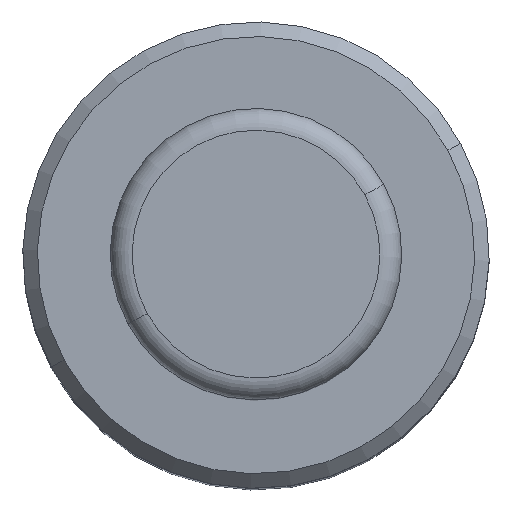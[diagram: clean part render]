
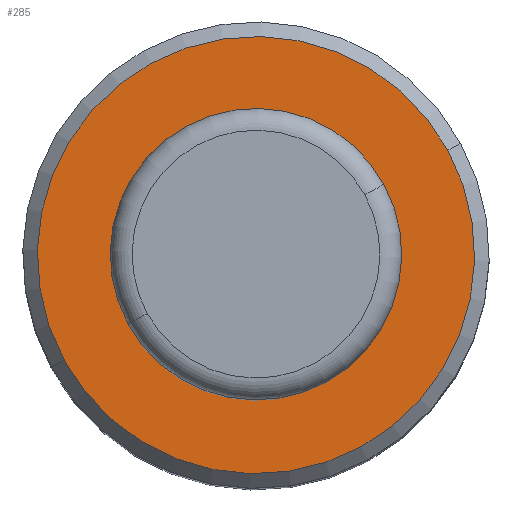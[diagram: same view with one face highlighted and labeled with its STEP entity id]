
A CAD part, top view. The second image highlights one B-rep face of the part: STEP entity #285.
In plain terms, the highlighted planar face has unit normal (0, 0, 1).
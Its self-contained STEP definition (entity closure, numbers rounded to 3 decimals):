
#57=CARTESIAN_POINT('Axis2P3D Location',(0.,0.,69.)) ;
#61=CARTESIAN_POINT('Vertex',(13.164,7.191,69.)) ;
#63=CARTESIAN_POINT('Vertex',(-13.164,-7.191,69.)) ;
#92=CARTESIAN_POINT('Axis2P3D Location',(0.,0.,69.)) ;
#276=CARTESIAN_POINT('Axis2P3D Location',(0.,0.,69.)) ;
#58=DIRECTION('Axis2P3D Direction',(0.,0.,-1.)) ;
#93=DIRECTION('Axis2P3D Direction',(0.,0.,-1.)) ;
#277=DIRECTION('Axis2P3D Direction',(0.,0.,1.)) ;
#278=DIRECTION('Axis2P3D XDirection',(1.,0.,0.)) ;
#59=AXIS2_PLACEMENT_3D('Circle Axis2P3D',#57,#58,$) ;
#94=AXIS2_PLACEMENT_3D('Circle Axis2P3D',#92,#93,$) ;
#279=AXIS2_PLACEMENT_3D('Plane Axis2P3D',#276,#277,#278) ;
#282=ORIENTED_EDGE('',*,*,#65,.T.) ;
#283=ORIENTED_EDGE('',*,*,#96,.T.) ;
#285=ADVANCED_FACE('',(#284),#280,.T.) ;
#60=CIRCLE('generated circle',#59,15.) ;
#95=CIRCLE('generated circle',#94,15.) ;
#65=EDGE_CURVE('',#62,#64,#60,.F.) ;
#96=EDGE_CURVE('',#64,#62,#95,.F.) ;
#281=EDGE_LOOP('',(#282,#283)) ;
#284=FACE_OUTER_BOUND('',#281,.T.) ;
#280=PLANE('Plane',#279) ;
#62=VERTEX_POINT('',#61) ;
#64=VERTEX_POINT('',#63) ;
